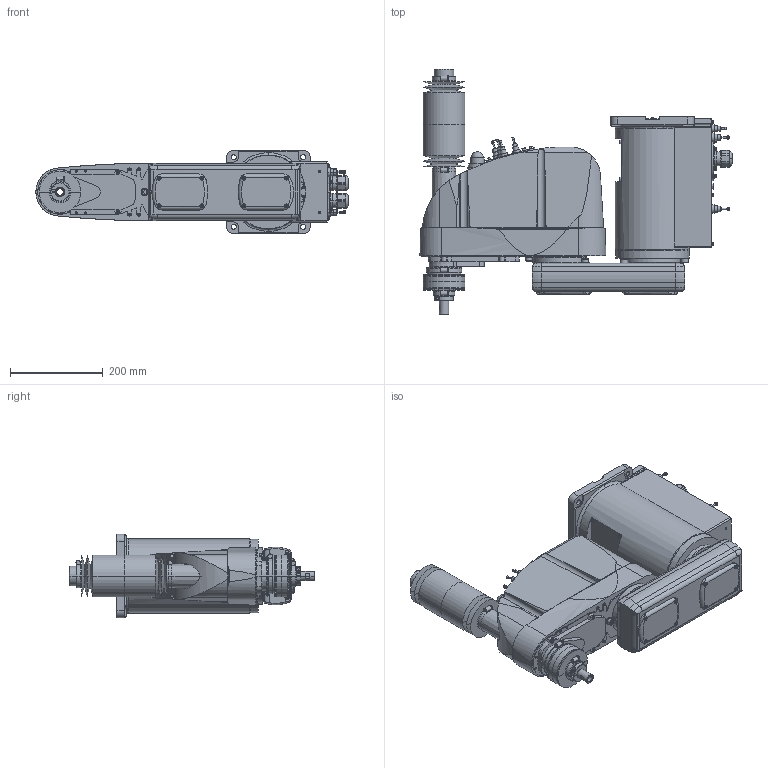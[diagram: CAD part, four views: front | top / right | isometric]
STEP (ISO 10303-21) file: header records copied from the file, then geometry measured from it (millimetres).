
FILE_DESCRIPTION( ( '' ), '1' );
FILE_NAME( '//expscmdclustefs.cadenas.external/client_exchange/iodir/jobs/output/wkb51531939_no0/STEP/G6_451PR_2_14b.stp', '2012-11-23T08:19:38', ( '' ), ( '' ), ' ', ' ', ' ' );
FILE_SCHEMA( ( 'automotive_design' ) );
Length unit declared in the file: millimetre
Products named in the file (8): 1; 2; 3; 4; 5; 6; 7; 8
Bounding box: 674 x 529.5 x 180 mm (x, y, z)
Volume: 20854963.5 mm3; surface area: 1051872 mm2
Topology: 8 solids, 8 shells, 1830 faces, 4409 edges, 2805 vertices
Faces by surface type: plane 875, cylinder 630, cone 284, torus 40, sphere 1
Entity records: 107387 total; most frequent: CARTESIAN_POINT 13037, DIRECTION 9430, STYLED_ITEM 9022, PRESENTATION_STYLE_ASSIGNMENT 9022, COLOUR_RGB 9022, ORIENTED_EDGE 8758, EDGE_CURVE 4379, CURVE_STYLE 4379
